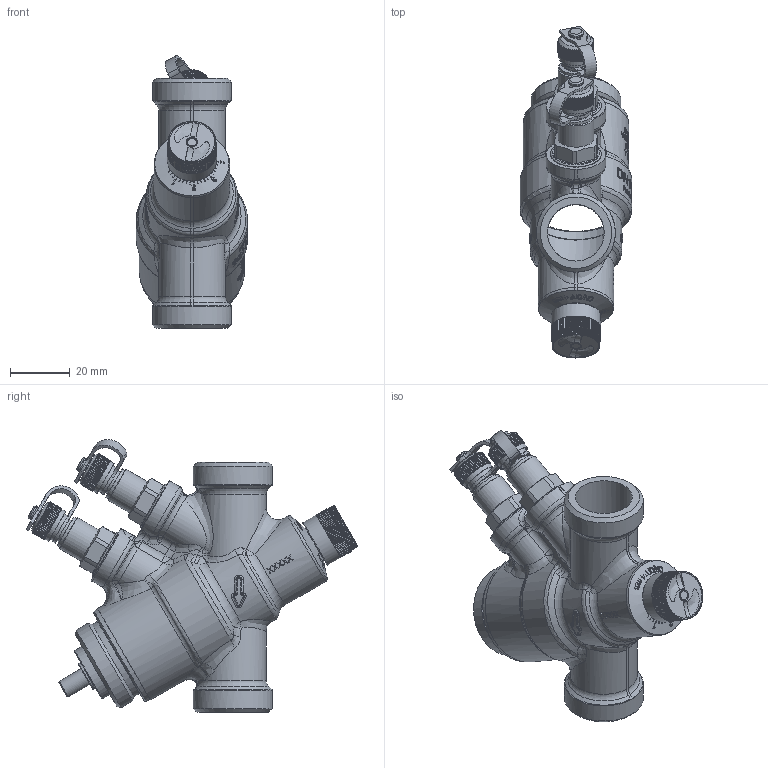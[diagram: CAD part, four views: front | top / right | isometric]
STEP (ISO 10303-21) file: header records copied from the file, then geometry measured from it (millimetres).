
FILE_DESCRIPTION(/* description */ ('Ventil on/off DN15 N/N P/T Low'),/* implementation_level */ '2;1');
FILE_NAME(/* name */ 'C:\Users\cbr\Desktop\01-0225.stp',/* time_stamp */ '2019-10-23T09:56:50+02:00',/* author */ ('cbr'),/* organization */ (''),/* preprocessor_version */ 'ST-DEVELOPER v17.2',/* originating_system */ 'Autodesk Inventor 2019',/* authorisation */ '');
FILE_SCHEMA (('AUTOMOTIVE_DESIGN { 1 0 10303 214 3 1 1 }'));
Length unit declared in the file: millimetre
Products named in the file (33): 01-0225; 59771; 901310; 69706; 75609; 68936; 73039-90778; 66591; 66083; 80502; 79168-901310; 73160-901310; 73047; 66592; 80503; 73039-01-02XX; 75315; 67467; 79169; 75612; 90338; 73040 for 90329; 75344_monteret; 73075 for 92005; 90339; 67460; 66588; 67055; 73040 for 67055; 75145; 75345_monteret; 73075 for 90308; 91707_01-0225
Assembly tree (40 placements, depth 3):
  01-0225
    59771
    901310
      69706
      75609
      68936
      73039-90778  x2
      66591
      66083
      80502
      79168-901310
      73160-901310
      73047
      66592
      79169
    80503
    73039-01-02XX
    75315
    67467
    79169
    75612
    90338
      67460
      66588
      67055
      73040 for 90329
      75145  x2
      75344_monteret
      73075 for 92005
    90339
      67460
      66588
      67055
      73040 for 67055
      75145  x2
      75345_monteret
      73075 for 90308
    91707_01-0225
Bounding box: 37.35 x 111.11 x 91.32 mm (x, y, z)
Volume: 51688.1 mm3; surface area: 52951 mm2
Topology: 129 solids, 129 shells, 3465 faces, 9353 edges, 6178 vertices
Faces by surface type: plane 1605, bspline 818, cylinder 750, cone 184, torus 96, sphere 12
Full cylindrical faces by diameter (mm): 2 x1, 2.9 x2, 3 x7, 3.1 x2, 3.2 x2, 3.3 x1, 4 x2, 4.3 x2, 5 x6, 6 x3, 6.1 x2, 6.2 x5, 6.3 x1, 7 x3, 7.4 x1, 7.5 x2, 8 x1, 8.3 x2, 8.566 x2, 9 x2, 9.15 x2, 9.2 x2, 9.3 x1, 9.5 x1, 9.6 x2, 9.728 x2, 10 x3, 11 x4, 11.5 x3, 11.7 x4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
Entity records: 129372 total; most frequent: CARTESIAN_POINT 56075, ORIENTED_EDGE 16408, DIRECTION 12654, EDGE_CURVE 8204, VERTEX_POINT 5429, AXIS2_PLACEMENT_3D 4432, LINE 3790, VECTOR 3790
